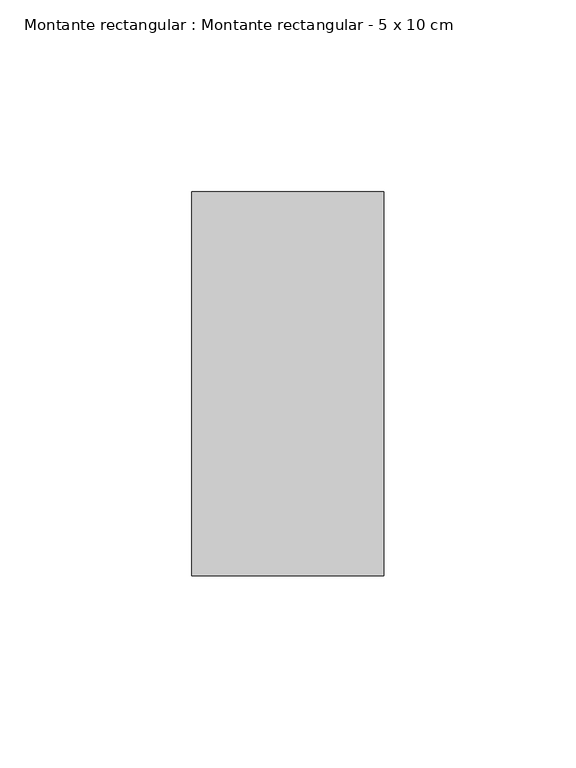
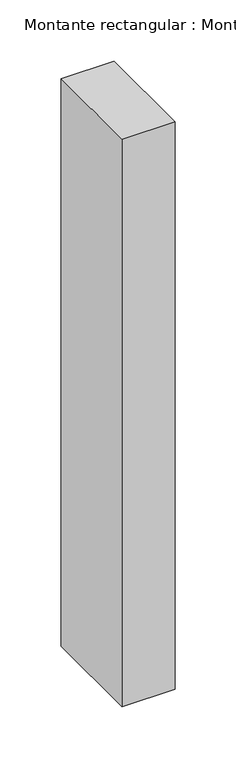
"""IFC4 building model written with IfcOpenShell, lengths in millimetres: member geometry, Montante rectangular : Montante rectangular - 5 x 10 cm."""

from ifc_helpers import new_model, si_unit, frame, origin, place, context, project, spatial, polyline, outline, extrude, source, transform, mapped, element, save


def montante_rectangular_montante_rectangular_5_x_10_cm_2a716aa6(model_context):
    return source(origin(), model_context, "Body", "SweptSolid", [
        extrude(outline(polyline([(25.0, 50.0), (25.0, -50.0), (-25.0, -50.0), (-25.0, 50.0), (25.0, 50.0)])), frame((0.0, 0.0, -566.8162585), z_axis=(0.0, 0.0, 1.0), x_axis=(1.0, 0.0, 0.0)), (0.0, 0.0, 1.0), 566.8162585),
    ])


if __name__ == "__main__":
    model = new_model("IFC4")
    model_context = context("Model", 3, world=origin())
    ifc_project = project(units=[si_unit("LENGTHUNIT", "METRE", prefix="MILLI")], contexts=[model_context])
    site = spatial("IfcSite", under=ifc_project)
    building = spatial("IfcBuilding", under=site)
    placement = place(None, origin())
    montante_rectangular_montante_rectangular_5_x_10_cm_shape = montante_rectangular_montante_rectangular_5_x_10_cm_2a716aa6(model_context)
    element("IfcMember", 1, ObjectType="Montante rectangular : Montante rectangular - 5 x 10 cm", at=placement, inside=building, context=model_context, shape_type="MappedRepresentation", body=[
        mapped(montante_rectangular_montante_rectangular_5_x_10_cm_shape, transform((0.0, 0.0, 0.0), x_axis=(1.0, 0.0, 0.0), y_axis=(0.0, 1.0, 0.0), z_axis=(0.0, 0.0, 1.0))),
    ])
    save(model, "model.ifc")
